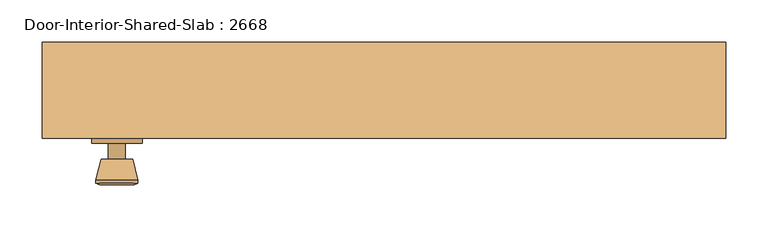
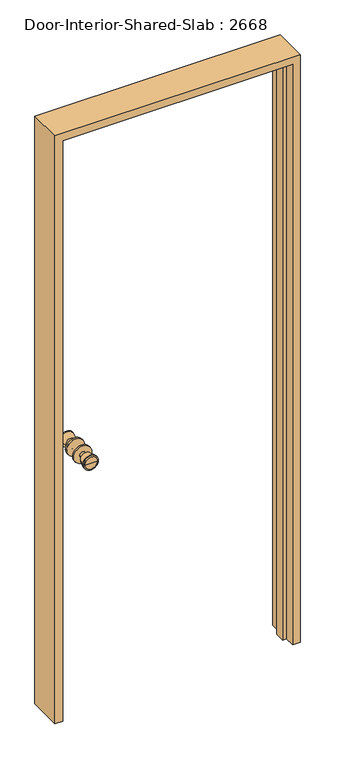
"""IFC4 building model written with IfcOpenShell, lengths in millimetres: door geometry, Door-Interior-Shared-Slab : 2668."""

from ifc_helpers import new_model, si_unit, point, frame, frame_2d, origin, place, context, project, spatial, polyline, circle_curve, trimmed, segment, composite_curve, outline, extrude, faceted_brep, source, transform, mapped, element, save
from ifc_brep_helpers import plane_surface, cylinder_surface, revolved_surface, advanced_brep


def door_interior_shared_slab_2668_a920907e(model_context):
    return source(origin(), model_context, "Body", "SolidModel", [
        advanced_brep(
        [(-317.5, -13.05, 914.4), (-327.5, -13.05, 914.4), (-307.5, -13.05, 914.4), (-297.0241324, 35.95, 914.4), (-337.9758676, 35.95, 914.4), (-317.5, 35.95, 914.4), (-292.5, 34.1221319, 914.4), (-342.5, 34.1221319, 914.4), (-292.5, 30.6584537, 914.4), (-342.5, 30.6584537, 914.4), (-298.863764, 5.95, 914.4), (-336.136236, 5.95, 914.4), (-307.5, 5.95, 914.4), (-327.5, 5.95, 914.4)],
        [
            (0, 1),
            (1, 2, circle_curve(frame((-317.5, -13.05, 914.4), z_axis=(0.0, -1.0, 0.0), x_axis=(-1.0, 0.0, 0.0)), 10.0)),
            (2, 0),
            (2, 1, circle_curve(frame((-317.5, -13.05, 914.4), z_axis=(0.0, -1.0, 0.0), x_axis=(-1.0, 0.0, 0.0)), 10.0)),
            (3, 4, circle_curve(frame((-317.5, 35.95, 914.4), z_axis=(0.0, 1.0, 0.0), x_axis=(-1.0, 0.0, 0.0)), 20.4758676)),
            (4, 5),
            (5, 3),
            (4, 3, circle_curve(frame((-317.5, 35.95, 914.4), z_axis=(0.0, 1.0, 0.0), x_axis=(-1.0, 0.0, 0.0)), 20.4758676)),
            (6, 7, circle_curve(frame((-317.5, 34.1221319, 914.4), z_axis=(0.0, 1.0, 0.0), x_axis=(-1.0, 0.0, 0.0)), 25.0)),
            (7, 4),
            (3, 6),
            (7, 6, circle_curve(frame((-317.5, 34.1221319, 914.4), z_axis=(0.0, 1.0, 0.0), x_axis=(-1.0, 0.0, 0.0)), 25.0)),
            (8, 9, circle_curve(frame((-317.5, 30.6584537, 914.4), z_axis=(0.0, 1.0, 0.0), x_axis=(-1.0, 0.0, 0.0)), 25.0)),
            (9, 7),
            (6, 8),
            (9, 8, circle_curve(frame((-317.5, 30.6584537, 914.4), z_axis=(0.0, 1.0, 0.0), x_axis=(-1.0, 0.0, 0.0)), 25.0)),
            (10, 11, circle_curve(frame((-317.5, 5.95, 914.4), z_axis=(0.0, 1.0, 0.0), x_axis=(-1.0, 0.0, 0.0)), 18.636236)),
            (11, 9),
            (8, 10),
            (11, 10, circle_curve(frame((-317.5, 5.95, 914.4), z_axis=(0.0, 1.0, 0.0), x_axis=(-1.0, 0.0, 0.0)), 18.636236)),
            (12, 13, circle_curve(frame((-317.5, 5.95, 914.4), z_axis=(0.0, 1.0, 0.0), x_axis=(-1.0, 0.0, 0.0)), 10.0)),
            (13, 11),
            (10, 12),
            (13, 12, circle_curve(frame((-317.5, 5.95, 914.4), z_axis=(0.0, 1.0, 0.0), x_axis=(-1.0, 0.0, 0.0)), 10.0)),
            (1, 13),
            (12, 2),
        ],
        [
            plane_surface(frame((-317.5, -13.05, 914.4), z_axis=(0.0, -1.0, 0.0), x_axis=(-1.0, 0.0, 0.0))),
            plane_surface(frame((-317.5, 35.95, 914.4), z_axis=(0.0, 1.0, 0.0), x_axis=(-1.0, 0.0, 0.0))),
            revolved_surface(polyline([(-337.9758676, 35.95, 914.4), (-342.5, 34.1221319, 914.4)]), (-317.5, -13.05, 914.4), (0.0, -1.0, 0.0)),
            cylinder_surface(frame((-317.5, -13.05, 914.4), z_axis=(0.0, -1.0, 0.0), x_axis=(-1.0, 0.0, 0.0)), 25.0),
            revolved_surface(polyline([(-342.5, 30.6584537, 914.4), (-336.136236, 5.95, 914.4)]), (-317.5, -13.05, 914.4), (0.0, -1.0, 0.0)),
            plane_surface(frame((-317.5, 5.95, 914.4), z_axis=(0.0, -1.0, 0.0), x_axis=(-1.0, 0.0, 0.0))),
            cylinder_surface(frame((-317.5, -13.05, 914.4), z_axis=(0.0, -1.0, 0.0), x_axis=(-1.0, 0.0, 0.0)), 10.0),
        ],
        [
            (0, [[1, 2, 3]]),
            (0, [[-3, 4, -1]]),
            (1, [[5, 6, 7]]),
            (1, [[8, -7, -6]]),
            (2, [[9, 10, -5, 11]]),
            (2, [[12, -11, -8, -10]]),
            (3, [[13, 14, -9, 15]]),
            (3, [[16, -15, -12, -14]]),
            (4, [[17, 18, -13, 19]]),
            (4, [[20, -19, -16, -18]]),
            (5, [[21, 22, -17, 23]]),
            (5, [[24, -23, -20, -22]]),
            (6, [[-2, 25, -21, 26]]),
            (6, [[-4, -26, -24, -25]]),
        ],
    ),
        extrude(outline(composite_curve([segment(trimmed(circle_curve(frame_2d((914.4, -317.5)), 30.0), [point((914.4, -347.5))], [point((914.4, -287.5))], False, "CARTESIAN"), True, "CONTINUOUS"), segment(trimmed(circle_curve(frame_2d((914.4, -317.5)), 30.0), [point((914.4, -287.5))], [point((914.4, -347.5))], False, "CARTESIAN"), True, "CONTINUOUS")], self_intersect=False)), frame((0.0, -19.05, 0.0), z_axis=(0.0, 1.0, 0.0), x_axis=(0.0, 0.0, 1.0)), (0.0, 0.0, 1.0), 6.0),
        advanced_brep(
        [(-317.5, -59.975, 914.4), (-307.5, -59.975, 914.4), (-327.5, -59.975, 914.4), (-297.0241324, -108.975, 914.4), (-317.5, -108.975, 914.4), (-337.9758676, -108.975, 914.4), (-292.5, -107.1471319, 914.4), (-342.5, -107.1471319, 914.4), (-292.5, -103.6834537, 914.4), (-342.5, -103.6834537, 914.4), (-298.863764, -78.975, 914.4), (-336.136236, -78.975, 914.4), (-307.5, -78.975, 914.4), (-327.5, -78.975, 914.4)],
        [
            (0, 1),
            (1, 2, circle_curve(frame((-317.5, -59.975, 914.4), z_axis=(0.0, 1.0, 0.0), x_axis=(-1.0, 0.0, 0.0)), 10.0)),
            (2, 0),
            (2, 1, circle_curve(frame((-317.5, -59.975, 914.4), z_axis=(0.0, 1.0, 0.0), x_axis=(-1.0, 0.0, 0.0)), 10.0)),
            (3, 4),
            (4, 5),
            (5, 3, circle_curve(frame((-317.5, -108.975, 914.4), z_axis=(0.0, -1.0, 0.0), x_axis=(-1.0, 0.0, 0.0)), 20.4758676)),
            (3, 5, circle_curve(frame((-317.5, -108.975, 914.4), z_axis=(0.0, -1.0, 0.0), x_axis=(-1.0, 0.0, 0.0)), 20.4758676)),
            (6, 3),
            (5, 7),
            (7, 6, circle_curve(frame((-317.5, -107.1471319, 914.4), z_axis=(0.0, -1.0, 0.0), x_axis=(-1.0, 0.0, 0.0)), 25.0)),
            (6, 7, circle_curve(frame((-317.5, -107.1471319, 914.4), z_axis=(0.0, -1.0, 0.0), x_axis=(-1.0, 0.0, 0.0)), 25.0)),
            (8, 6),
            (7, 9),
            (9, 8, circle_curve(frame((-317.5, -103.6834537, 914.4), z_axis=(0.0, -1.0, 0.0), x_axis=(-1.0, 0.0, 0.0)), 25.0)),
            (8, 9, circle_curve(frame((-317.5, -103.6834537, 914.4), z_axis=(0.0, -1.0, 0.0), x_axis=(-1.0, 0.0, 0.0)), 25.0)),
            (10, 8),
            (9, 11),
            (11, 10, circle_curve(frame((-317.5, -78.975, 914.4), z_axis=(0.0, -1.0, 0.0), x_axis=(-1.0, 0.0, 0.0)), 18.636236)),
            (10, 11, circle_curve(frame((-317.5, -78.975, 914.4), z_axis=(0.0, -1.0, 0.0), x_axis=(-1.0, 0.0, 0.0)), 18.636236)),
            (12, 10),
            (11, 13),
            (13, 12, circle_curve(frame((-317.5, -78.975, 914.4), z_axis=(0.0, -1.0, 0.0), x_axis=(-1.0, 0.0, 0.0)), 10.0)),
            (12, 13, circle_curve(frame((-317.5, -78.975, 914.4), z_axis=(0.0, -1.0, 0.0), x_axis=(-1.0, 0.0, 0.0)), 10.0)),
            (1, 12),
            (13, 2),
        ],
        [
            plane_surface(frame((-317.5, -59.975, 914.4), z_axis=(0.0, 1.0, 0.0), x_axis=(-1.0, 0.0, 0.0))),
            plane_surface(frame((-317.5, -108.975, 914.4), z_axis=(0.0, -1.0, 0.0), x_axis=(-1.0, 0.0, 0.0))),
            revolved_surface(polyline([(-337.9758676, -108.975, 914.4), (-342.5, -107.1471319, 914.4)]), (-317.5, -59.975, 914.4), (0.0, 1.0, 0.0)),
            cylinder_surface(frame((-317.5, -59.975, 914.4), z_axis=(0.0, 1.0, 0.0), x_axis=(-1.0, 0.0, 0.0)), 25.0),
            revolved_surface(polyline([(-342.5, -103.6834537, 914.4), (-336.136236, -78.975, 914.4)]), (-317.5, -59.975, 914.4), (0.0, 1.0, 0.0)),
            plane_surface(frame((-317.5, -78.975, 914.4), z_axis=(0.0, 1.0, 0.0), x_axis=(-1.0, 0.0, 0.0))),
            cylinder_surface(frame((-317.5, -59.975, 914.4), z_axis=(0.0, 1.0, 0.0), x_axis=(-1.0, 0.0, 0.0)), 10.0),
        ],
        [
            (0, [[1, 2, 3]]),
            (0, [[-3, 4, -1]]),
            (1, [[5, 6, 7]]),
            (1, [[-6, -5, 8]]),
            (2, [[9, -7, 10, 11]]),
            (2, [[-10, -8, -9, 12]]),
            (3, [[13, -11, 14, 15]]),
            (3, [[-14, -12, -13, 16]]),
            (4, [[17, -15, 18, 19]]),
            (4, [[-18, -16, -17, 20]]),
            (5, [[21, -19, 22, 23]]),
            (5, [[-22, -20, -21, 24]]),
            (6, [[25, -23, 26, -2]]),
            (6, [[-26, -24, -25, -4]]),
        ],
    ),
        extrude(outline(composite_curve([segment(trimmed(circle_curve(frame_2d((914.4, -317.5)), 30.0), [point((914.4, -347.5))], [point((914.4, -287.5))], False, "CARTESIAN"), True, "CONTINUOUS"), segment(trimmed(circle_curve(frame_2d((914.4, -317.5)), 30.0), [point((914.4, -287.5))], [point((914.4, -347.5))], False, "CARTESIAN"), True, "CONTINUOUS")], self_intersect=False)), frame((0.0, -59.975, 0.0), z_axis=(0.0, 1.0, 0.0), x_axis=(0.0, 0.0, 1.0)), (0.0, 0.0, 1.0), 6.0),
        faceted_brep([(406.4, -53.975, 0.0), (381.0, -53.975, 0.0), (381.0, -19.05, 0.0), (368.3, -19.05, 0.0), (368.3, 15.875, 0.0), (381.0, 15.875, 0.0), (381.0, 60.325, 0.0), (406.4, 60.325, 0.0), (406.4, 60.325, 2057.4), (406.4, -53.975, 2057.4), (381.0, 60.325, 2032.0), (-381.0, 60.325, 2032.0), (-381.0, 60.325, 0.0), (-406.4, 60.325, 0.0), (-406.4, 60.325, 2057.4), (381.0, 15.875, 2032.0), (368.3, 15.875, 2019.3), (-368.3, 15.875, 2019.3), (-368.3, 15.875, 0.0), (-381.0, 15.875, 0.0), (-381.0, 15.875, 2032.0), (368.3, -19.05, 2019.3), (381.0, -19.05, 2032.0), (-381.0, -19.05, 2032.0), (-381.0, -19.05, 0.0), (-368.3, -19.05, 0.0), (-368.3, -19.05, 2019.3), (381.0, -53.975, 2032.0), (-406.4, -53.975, 2057.4), (-406.4, -53.975, 0.0), (-381.0, -53.975, 0.0), (-381.0, -53.975, 2032.0)], [[[0, 1, 2, 3, 4, 5, 6, 7]], [[7, 8, 9, 0]], [[6, 10, 11, 12, 13, 14, 8, 7]], [[5, 15, 10, 6]], [[4, 16, 17, 18, 19, 20, 15, 5]], [[3, 21, 16, 4]], [[2, 22, 23, 24, 25, 26, 21, 3]], [[1, 27, 22, 2]], [[0, 9, 28, 29, 30, 31, 27, 1]], [[8, 14, 28, 9]], [[15, 20, 11, 10]], [[21, 26, 17, 16]], [[27, 31, 23, 22]], [[29, 13, 12, 19, 18, 25, 24, 30]], [[14, 13, 29, 28]], [[20, 19, 12, 11]], [[26, 25, 18, 17]], [[31, 30, 24, 23]]]),
    ])


if __name__ == "__main__":
    model = new_model("IFC4")
    model_context = context("Model", 3, world=origin())
    ifc_project = project(units=[si_unit("LENGTHUNIT", "METRE", prefix="MILLI")], contexts=[model_context])
    site = spatial("IfcSite", under=ifc_project)
    building = spatial("IfcBuilding", under=site)
    placement = place(None, origin())
    door_interior_shared_slab_2668_shape = door_interior_shared_slab_2668_a920907e(model_context)
    element("IfcDoor", 1, ObjectType="Door-Interior-Shared-Slab : 2668", at=placement, inside=building, context=model_context, shape_type="MappedRepresentation", body=[
        mapped(door_interior_shared_slab_2668_shape, transform((0.0, 0.0, 0.0), x_axis=(1.0, 0.0, 0.0), y_axis=(0.0, 1.0, 0.0), z_axis=(0.0, 0.0, 1.0))),
    ])
    save(model, "model.ifc")
